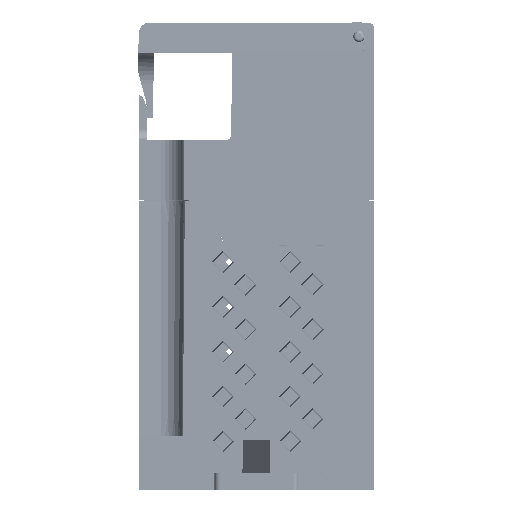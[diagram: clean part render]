
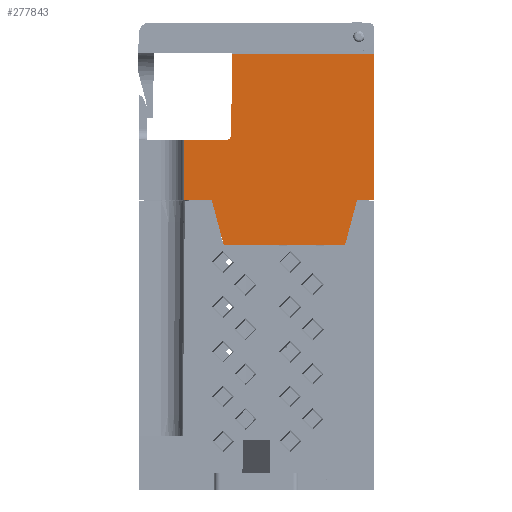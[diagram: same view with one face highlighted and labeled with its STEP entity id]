
A CAD part, front view. The second image highlights one B-rep face of the part: STEP entity #277843.
In plain terms, the highlighted planar face has unit normal (0, -1, 0) as drawn and (0, 1, 0) by its records, which use the part's own axes.
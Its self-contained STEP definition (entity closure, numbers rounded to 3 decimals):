
#7940 = EDGE_CURVE ( 'NONE', #336895, #490820, #294561, .T. ) ;
#19814 = VECTOR ( 'NONE', #324009, 1000. ) ;
#46986 = DIRECTION ( 'NONE',  ( 0., 0., -1. ) ) ;
#47186 = VERTEX_POINT ( 'NONE', #354413 ) ;
#57226 = EDGE_CURVE ( 'NONE', #520774, #47186, #219607, .T. ) ;
#58420 = CARTESIAN_POINT ( 'NONE',  ( 23.33, 64.959, -47.9 ) ) ;
#79696 = CARTESIAN_POINT ( 'NONE',  ( 30.5, 64.959, -7.151 ) ) ;
#89499 = LINE ( 'NONE', #109576, #94979 ) ;
#94979 = VECTOR ( 'NONE', #418978, 1000. ) ;
#107915 = LINE ( 'NONE', #58420, #19814 ) ;
#109576 = CARTESIAN_POINT ( 'NONE',  ( 32.5, 64.959, -13.851 ) ) ;
#119910 = AXIS2_PLACEMENT_3D ( 'NONE', #306818, #397291, #178326 ) ;
#121214 = CIRCLE ( 'NONE', #119910, 1. ) ;
#121819 = EDGE_CURVE ( 'NONE', #309299, #567505, #241106, .T. ) ;
#126296 = CARTESIAN_POINT ( 'NONE',  ( 30.5, 64.959, -29.151 ) ) ;
#139582 = VECTOR ( 'NONE', #46986, 1000. ) ;
#145959 = ORIENTED_EDGE ( 'NONE', *, *, #121819, .F. ) ;
#156186 = DIRECTION ( 'NONE',  ( 1., 0., 0. ) ) ;
#163792 = VERTEX_POINT ( 'NONE', #257084 ) ;
#168555 = DIRECTION ( 'NONE',  ( -1., 0., 0. ) ) ;
#178326 = DIRECTION ( 'NONE',  ( -1., 0., 0. ) ) ;
#178540 = VECTOR ( 'NONE', #187318, 1000. ) ;
#186362 = CARTESIAN_POINT ( 'NONE',  ( 21.875, 64.959, -13.851 ) ) ;
#186577 = EDGE_CURVE ( 'NONE', #47186, #309299, #324675, .T. ) ;
#187318 = DIRECTION ( 'NONE',  ( 1., 0., 0. ) ) ;
#189138 = VECTOR ( 'NONE', #208120, 1000. ) ;
#197013 = CARTESIAN_POINT ( 'NONE',  ( -3.5, 64.959, -13.851 ) ) ;
#197851 = EDGE_CURVE ( 'NONE', #352611, #163792, #264771, .T. ) ;
#203061 = DIRECTION ( 'NONE',  ( 1., 0., 0. ) ) ;
#208120 = DIRECTION ( 'NONE',  ( 0., 0., 1. ) ) ;
#218291 = CARTESIAN_POINT ( 'NONE',  ( 32.5, 64.959, -7.151 ) ) ;
#219607 = LINE ( 'NONE', #409157, #178540 ) ;
#220964 = CARTESIAN_POINT ( 'NONE',  ( 0., 64.959, -29.151 ) ) ;
#221271 = ORIENTED_EDGE ( 'NONE', *, *, #7940, .F. ) ;
#222255 = AXIS2_PLACEMENT_3D ( 'NONE', #218291, #396339, #571559 ) ;
#224945 = CARTESIAN_POINT ( 'NONE',  ( -3.5, 64.959, 0. ) ) ;
#237089 = DIRECTION ( 'NONE',  ( 0.259, 0., -0.966 ) ) ;
#239840 = ORIENTED_EDGE ( 'NONE', *, *, #57226, .F. ) ;
#241106 = LINE ( 'NONE', #564966, #495464 ) ;
#246199 = CARTESIAN_POINT ( 'NONE',  ( 23.33, 64.959, -47.9 ) ) ;
#253631 = ORIENTED_EDGE ( 'NONE', *, *, #445849, .F. ) ;
#257084 = CARTESIAN_POINT ( 'NONE',  ( 23., 64.959, -29.151 ) ) ;
#259984 = ORIENTED_EDGE ( 'NONE', *, *, #186577, .F. ) ;
#261468 = VECTOR ( 'NONE', #168555, 1000. ) ;
#264771 = LINE ( 'NONE', #220964, #261468 ) ;
#276533 = CARTESIAN_POINT ( 'NONE',  ( 30.5, 64.959, -39.8 ) ) ;
#277843 = ADVANCED_FACE ( 'NONE', ( #577280 ), #343909, .F. ) ;
#285484 = CARTESIAN_POINT ( 'NONE',  ( 25.5, 64.959, -39.8 ) ) ;
#290429 = EDGE_CURVE ( 'NONE', #567505, #393822, #107915, .T. ) ;
#294561 = LINE ( 'NONE', #472666, #377342 ) ;
#297286 = VECTOR ( 'NONE', #237089, 1000. ) ;
#306818 = CARTESIAN_POINT ( 'NONE',  ( 23., 64.959, -28.151 ) ) ;
#309299 = VERTEX_POINT ( 'NONE', #492473 ) ;
#312303 = VERTEX_POINT ( 'NONE', #276533 ) ;
#324009 = DIRECTION ( 'NONE',  ( 0.259, 0., 0.966 ) ) ;
#324675 = LINE ( 'NONE', #417990, #297286 ) ;
#327839 = EDGE_CURVE ( 'NONE', #391501, #520774, #575341, .T. ) ;
#332975 = ORIENTED_EDGE ( 'NONE', *, *, #428068, .F. ) ;
#336895 = VERTEX_POINT ( 'NONE', #403321 ) ;
#341925 = VECTOR ( 'NONE', #156186, 1000. ) ;
#343909 = PLANE ( 'NONE',  #222255 ) ;
#352611 = VERTEX_POINT ( 'NONE', #126296 ) ;
#354413 = CARTESIAN_POINT ( 'NONE',  ( -0.5, 64.959, -39.8 ) ) ;
#364224 = ORIENTED_EDGE ( 'NONE', *, *, #327839, .F. ) ;
#369013 = ORIENTED_EDGE ( 'NONE', *, *, #197851, .F. ) ;
#374507 = ORIENTED_EDGE ( 'NONE', *, *, #290429, .F. ) ;
#377342 = VECTOR ( 'NONE', #385058, 1000. ) ;
#385058 = DIRECTION ( 'NONE',  ( -0.009, 0., 1. ) ) ;
#388828 = EDGE_CURVE ( 'NONE', #336895, #163792, #121214, .T. ) ;
#391501 = VERTEX_POINT ( 'NONE', #197013 ) ;
#393822 = VERTEX_POINT ( 'NONE', #285484 ) ;
#396339 = DIRECTION ( 'NONE',  ( 0., -1., 0. ) ) ;
#397291 = DIRECTION ( 'NONE',  ( 0., -1., 0. ) ) ;
#403321 = CARTESIAN_POINT ( 'NONE',  ( 22., 64.959, -28.151 ) ) ;
#409157 = CARTESIAN_POINT ( 'NONE',  ( 34.5, 64.959, -39.8 ) ) ;
#417990 = CARTESIAN_POINT ( 'NONE',  ( -0.5, 64.959, -39.8 ) ) ;
#418978 = DIRECTION ( 'NONE',  ( -1., 0., 0. ) ) ;
#424678 = CARTESIAN_POINT ( 'NONE',  ( 34.5, 64.959, -39.8 ) ) ;
#428068 = EDGE_CURVE ( 'NONE', #312303, #352611, #514728, .T. ) ;
#445849 = EDGE_CURVE ( 'NONE', #393822, #312303, #520905, .T. ) ;
#468287 = EDGE_LOOP ( 'NONE', ( #369013, #332975, #253631, #374507, #145959, #259984, #239840, #364224, #556707, #221271, #508626 ) ) ;
#472666 = CARTESIAN_POINT ( 'NONE',  ( 22., 64.959, -28.151 ) ) ;
#490820 = VERTEX_POINT ( 'NONE', #186362 ) ;
#492473 = CARTESIAN_POINT ( 'NONE',  ( 1.67, 64.959, -47.9 ) ) ;
#495464 = VECTOR ( 'NONE', #203061, 1000. ) ;
#508626 = ORIENTED_EDGE ( 'NONE', *, *, #388828, .T. ) ;
#514381 = EDGE_CURVE ( 'NONE', #490820, #391501, #89499, .T. ) ;
#514728 = LINE ( 'NONE', #79696, #189138 ) ;
#520774 = VERTEX_POINT ( 'NONE', #540803 ) ;
#520905 = LINE ( 'NONE', #424678, #341925 ) ;
#540803 = CARTESIAN_POINT ( 'NONE',  ( -3.5, 64.959, -39.8 ) ) ;
#556707 = ORIENTED_EDGE ( 'NONE', *, *, #514381, .F. ) ;
#564966 = CARTESIAN_POINT ( 'NONE',  ( 32.5, 64.959, -47.9 ) ) ;
#567505 = VERTEX_POINT ( 'NONE', #246199 ) ;
#571559 = DIRECTION ( 'NONE',  ( 0., 0., -1. ) ) ;
#575341 = LINE ( 'NONE', #224945, #139582 ) ;
#577280 = FACE_OUTER_BOUND ( 'NONE', #468287, .T. ) ;
